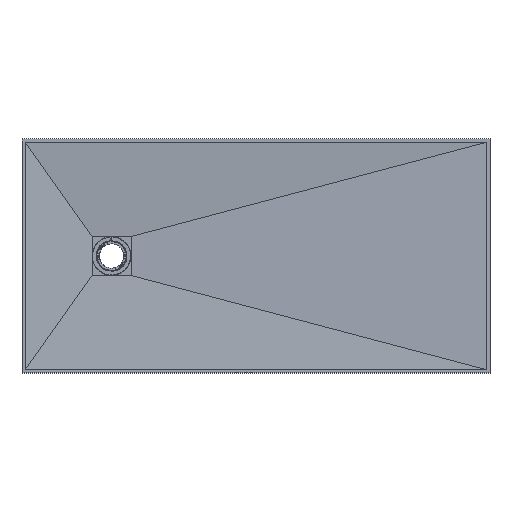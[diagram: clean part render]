
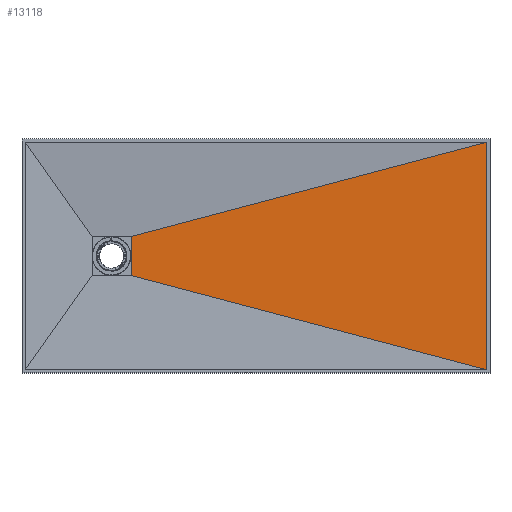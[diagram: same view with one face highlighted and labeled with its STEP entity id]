
A CAD part, top view. The second image highlights one B-rep face of the part: STEP entity #13118.
In plain terms, the highlighted planar face has unit normal (-0.02, 0, 1).
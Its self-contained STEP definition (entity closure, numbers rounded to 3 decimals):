
#2354=FACE_OUTER_BOUND('',#3097,.T.);
#3097=EDGE_LOOP('',(#8788,#8789,#8790,#8791));
#3889=LINE('',#18591,#4506);
#3908=LINE('',#18642,#4525);
#3910=LINE('',#18645,#4527);
#3911=LINE('',#18647,#4528);
#4506=VECTOR('',#15294,10.);
#4525=VECTOR('',#15343,10.);
#4527=VECTOR('',#15347,10.);
#4528=VECTOR('',#15350,10.);
#5114=VERTEX_POINT('',#18571);
#5119=VERTEX_POINT('',#18585);
#5135=VERTEX_POINT('',#18636);
#5137=VERTEX_POINT('',#18640);
#6575=EDGE_CURVE('',#5114,#5119,#3889,.F.);
#6599=EDGE_CURVE('',#5135,#5137,#3908,.F.);
#6601=EDGE_CURVE('',#5114,#5135,#3910,.T.);
#6602=EDGE_CURVE('',#5119,#5137,#3911,.T.);
#8788=ORIENTED_EDGE('',*,*,#6575,.F.);
#8789=ORIENTED_EDGE('',*,*,#6601,.T.);
#8790=ORIENTED_EDGE('',*,*,#6599,.T.);
#8791=ORIENTED_EDGE('',*,*,#6602,.F.);
#13049=PLANE('',#13955);
#13118=ADVANCED_FACE('',(#2354),#13049,.F.);
#13955=AXIS2_PLACEMENT_3D('',#18646,#15348,#15349);
#15294=DIRECTION('',(0.,1.,0.));
#15343=DIRECTION('',(0.,1.,0.));
#15347=DIRECTION('',(-0.967,-0.256,-0.019));
#15348=DIRECTION('center_axis',(0.02,0.,-1.));
#15349=DIRECTION('ref_axis',(-1.,0.,-0.02));
#15350=DIRECTION('',(-0.967,0.256,-0.019));
#18571=CARTESIAN_POINT('',(568.588,140.153,25.));
#18585=CARTESIAN_POINT('',(568.588,-748.753,25.));
#18591=CARTESIAN_POINT('',(568.588,-13.65,25.));
#18636=CARTESIAN_POINT('',(-821.012,-227.847,-2.5));
#18640=CARTESIAN_POINT('',(-821.012,-380.753,-2.5));
#18642=CARTESIAN_POINT('',(-821.012,-82.05,-2.5));
#18645=CARTESIAN_POINT('',(-273.71,-82.908,8.331));
#18646=CARTESIAN_POINT('Origin',(568.575,140.2,25.));
#18647=CARTESIAN_POINT('',(458.628,-719.633,22.824));
